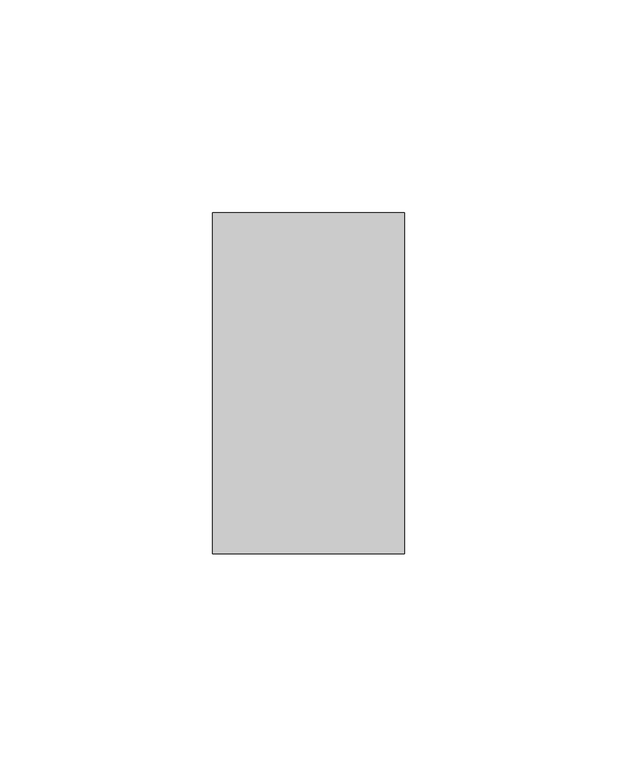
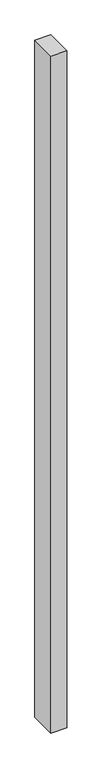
"""IFC4 building model written with IfcOpenShell, lengths in millimetres: member geometry, Obdélníková příčel : VERTI ELEMENT - vertikální."""

from ifc_helpers import new_model, si_unit, frame, origin, place, context, project, spatial, polyline, outline, extrude, source, transform, mapped, element, save


def member_13a5b57a(model_context):
    return source(origin(), model_context, "Body", "SweptSolid", [
        extrude(outline(polyline([(-45.0, 40.0), (0.0, 40.0), (0.0, -40.0), (-45.0, -40.0), (-45.0, 40.0)])), frame((0.0, 0.0, -2055.0), z_axis=(0.0, 0.0, 1.0), x_axis=(1.0, 0.0, 0.0)), (0.0, 0.0, 1.0), 2055.0),
    ])


if __name__ == "__main__":
    model = new_model("IFC4")
    model_context = context("Model", 3, world=origin())
    ifc_project = project(units=[si_unit("LENGTHUNIT", "METRE", prefix="MILLI")], contexts=[model_context])
    site = spatial("IfcSite", under=ifc_project)
    building = spatial("IfcBuilding", under=site)
    placement = place(None, origin())
    member_shape = member_13a5b57a(model_context)
    element("IfcMember", 1, ObjectType="Obdélníková příčel : VERTI ELEMENT - vertikální", at=placement, inside=building, context=model_context, shape_type="MappedRepresentation", body=[
        mapped(member_shape, transform((0.0, 0.0, 0.0), x_axis=(1.0, 0.0, 0.0), y_axis=(0.0, 1.0, 0.0), z_axis=(0.0, 0.0, 1.0))),
    ])
    save(model, "model.ifc")
